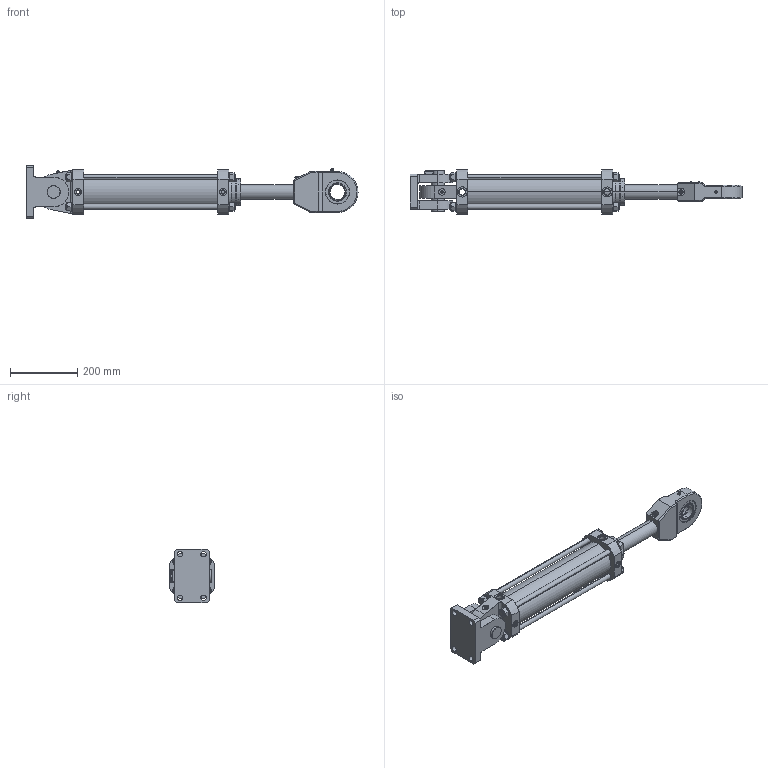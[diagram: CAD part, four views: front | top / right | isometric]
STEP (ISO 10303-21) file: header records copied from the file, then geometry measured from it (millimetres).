
FILE_DESCRIPTION (( 'STEP AP214' ), '1' );
FILE_NAME ('7800-0006_revC.STEP', '2019-08-23T17:54:46', ( '' ), ( '' ), 'SwSTEP 2.0', 'SolidWorks 2019', '' );
FILE_SCHEMA (( 'AUTOMOTIVE_DESIGN' ));
Length unit declared in the file: inch
Products named in the file (1): 7800-0006_revC
Bounding box: 989.03 x 131.98 x 158.75 mm (x, y, z)
Surface area: 619186.6 mm2 (no closed solid volume)
Topology: 0 solids, 79 shells, 784 faces, 2411 edges, 1681 vertices
Faces by surface type: plane 321, cylinder 211, cone 152, torus 61, bspline 31, sphere 8
Entity records: 43325 total; most frequent: CARTESIAN_POINT 12702, DIRECTION 4139, ORIENTED_EDGE 3786, EDGE_CURVE 2407, VERTEX_POINT 1681, AXIS2_PLACEMENT_3D 1566, LINE 1007, VECTOR 1007
